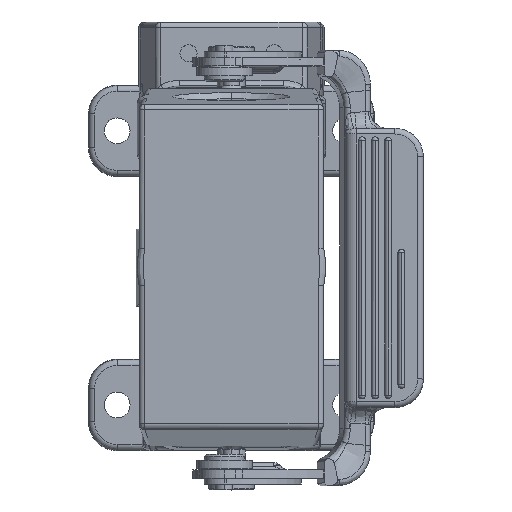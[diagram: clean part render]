
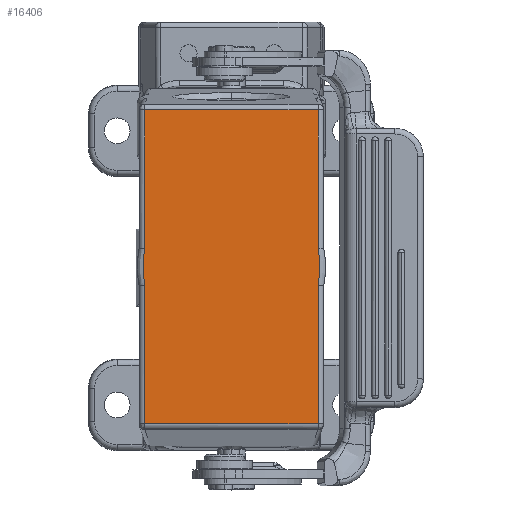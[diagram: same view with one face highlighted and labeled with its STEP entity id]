
A CAD part, top view. The second image highlights one B-rep face of the part: STEP entity #16406.
In plain terms, the highlighted planar face has unit normal (0, 0, 1).
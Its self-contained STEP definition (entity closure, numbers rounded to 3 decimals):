
#16406=ADVANCED_FACE('',(#21476),#19616,.F.);
#19616=PLANE('',#69545);
#21476=FACE_OUTER_BOUND('',#24369,.T.);
#24369=EDGE_LOOP('',(#28754,#28755,#28756,#28757,#28758,#28759,#28760,#28761));
#28065=(
BOUNDED_CURVE()
B_SPLINE_CURVE(3,(#90889,#90890,#90891,#90892),.UNSPECIFIED.,.F.,.F.)
B_SPLINE_CURVE_WITH_KNOTS((4,4),(0.,1.),.UNSPECIFIED.)
CURVE()
GEOMETRIC_REPRESENTATION_ITEM()
RATIONAL_B_SPLINE_CURVE((1.,0.986,0.986,
1.))
REPRESENTATION_ITEM('')
);
#28066=(
BOUNDED_CURVE()
B_SPLINE_CURVE(3,(#90901,#90902,#90903,#90904),.UNSPECIFIED.,.F.,.F.)
B_SPLINE_CURVE_WITH_KNOTS((4,4),(0.,1.),.UNSPECIFIED.)
CURVE()
GEOMETRIC_REPRESENTATION_ITEM()
RATIONAL_B_SPLINE_CURVE((1.,0.986,0.986,
1.))
REPRESENTATION_ITEM('')
);
#28754=ORIENTED_EDGE('',*,*,#51182,.F.);
#28755=ORIENTED_EDGE('',*,*,#51183,.F.);
#28756=ORIENTED_EDGE('',*,*,#51184,.F.);
#28757=ORIENTED_EDGE('',*,*,#51185,.F.);
#28758=ORIENTED_EDGE('',*,*,#51186,.F.);
#28759=ORIENTED_EDGE('',*,*,#51187,.F.);
#28760=ORIENTED_EDGE('',*,*,#51117,.T.);
#28761=ORIENTED_EDGE('',*,*,#51188,.F.);
#45340=VERTEX_POINT('',#90276);
#45341=VERTEX_POINT('',#90278);
#45380=VERTEX_POINT('',#90893);
#45381=VERTEX_POINT('',#90894);
#45382=VERTEX_POINT('',#90896);
#45383=VERTEX_POINT('',#90898);
#45384=VERTEX_POINT('',#90900);
#45385=VERTEX_POINT('',#90905);
#51117=EDGE_CURVE('',#45341,#45340,#59409,.T.);
#51182=EDGE_CURVE('',#45380,#45381,#28065,.T.);
#51183=EDGE_CURVE('',#45382,#45380,#59428,.T.);
#51184=EDGE_CURVE('',#45383,#45382,#59429,.T.);
#51185=EDGE_CURVE('',#45384,#45383,#59430,.T.);
#51186=EDGE_CURVE('',#45385,#45384,#28066,.T.);
#51187=EDGE_CURVE('',#45341,#45385,#59431,.T.);
#51188=EDGE_CURVE('',#45381,#45340,#59432,.T.);
#59409=LINE('',#90277,#64373);
#59428=LINE('',#90895,#64392);
#59429=LINE('',#90897,#64393);
#59430=LINE('',#90899,#64394);
#59431=LINE('',#90906,#64395);
#59432=LINE('',#90907,#64396);
#64373=VECTOR('',#74338,1.);
#64392=VECTOR('',#74417,1.);
#64393=VECTOR('',#74418,1.);
#64394=VECTOR('',#74419,1.);
#64395=VECTOR('',#74420,1.);
#64396=VECTOR('',#74421,1.);
#69545=AXIS2_PLACEMENT_3D('',#90908,#74422,#74423);
#74338=DIRECTION('',(0.,-1.,0.));
#74417=DIRECTION('',(-1.,0.,0.));
#74418=DIRECTION('',(0.,-1.,0.));
#74419=DIRECTION('',(1.,0.,0.));
#74420=DIRECTION('',(1.,0.,0.));
#74421=DIRECTION('',(-1.,0.,0.));
#74422=DIRECTION('',(0.,0.,-1.));
#74423=DIRECTION('',(1.,0.,0.));
#90276=CARTESIAN_POINT('',(5.856,27.509,129.075));
#90277=CARTESIAN_POINT('',(5.856,42.68,129.075));
#90278=CARTESIAN_POINT('',(5.856,57.851,129.075));
#90889=CARTESIAN_POINT('',(36.524,27.509,129.075));
#90890=CARTESIAN_POINT('',(34.422,27.069,129.075));
#90891=CARTESIAN_POINT('',(32.274,27.069,129.075));
#90892=CARTESIAN_POINT('',(30.172,27.509,129.075));
#90893=CARTESIAN_POINT('',(36.524,27.509,129.075));
#90894=CARTESIAN_POINT('',(30.172,27.509,129.075));
#90895=CARTESIAN_POINT('',(33.348,27.509,129.075));
#90896=CARTESIAN_POINT('',(60.84,27.509,129.075));
#90897=CARTESIAN_POINT('',(60.84,42.68,129.075));
#90898=CARTESIAN_POINT('',(60.84,57.851,129.075));
#90899=CARTESIAN_POINT('',(33.348,57.851,129.075));
#90900=CARTESIAN_POINT('',(36.524,57.851,129.075));
#90901=CARTESIAN_POINT('',(30.172,57.851,129.075));
#90902=CARTESIAN_POINT('',(32.274,58.291,129.075));
#90903=CARTESIAN_POINT('',(34.422,58.291,129.075));
#90904=CARTESIAN_POINT('',(36.524,57.851,129.075));
#90905=CARTESIAN_POINT('',(30.172,57.851,129.075));
#90906=CARTESIAN_POINT('',(33.348,57.851,129.075));
#90907=CARTESIAN_POINT('',(33.348,27.509,129.075));
#90908=CARTESIAN_POINT('',(60.84,26.994,129.075));
